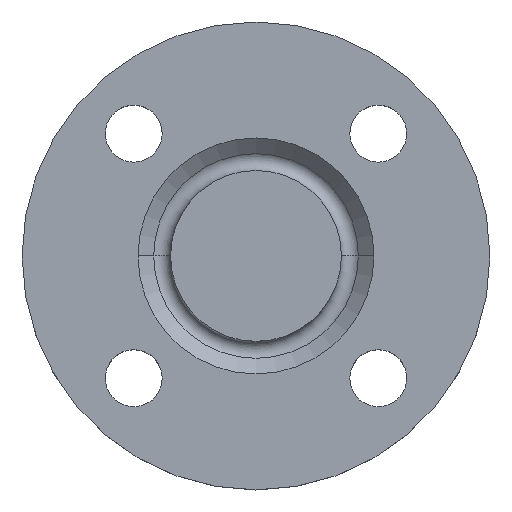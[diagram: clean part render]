
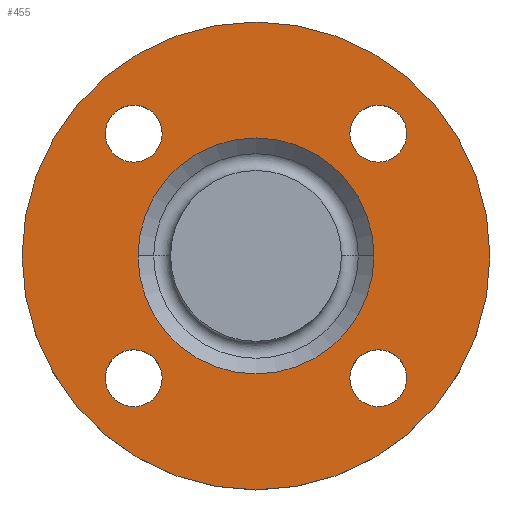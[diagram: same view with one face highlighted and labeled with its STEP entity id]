
A CAD part, top view. The second image highlights one B-rep face of the part: STEP entity #455.
In plain terms, the highlighted planar face has unit normal (0, 0, 1).
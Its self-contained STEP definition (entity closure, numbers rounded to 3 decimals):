
#5 = CARTESIAN_POINT ( 'NONE',  ( -29., 0., -2. ) ) ;
#6 = DIRECTION ( 'NONE',  ( 0., 0., -1. ) ) ;
#9 = AXIS2_PLACEMENT_3D ( 'NONE', #170, #837, #654 ) ;
#11 = CIRCLE ( 'NONE', #758, 29. ) ;
#21 = CARTESIAN_POINT ( 'NONE',  ( 0., 0., -2. ) ) ;
#58 = AXIS2_PLACEMENT_3D ( 'NONE', #622, #108, #279 ) ;
#68 = ORIENTED_EDGE ( 'NONE', *, *, #732, .T. ) ;
#85 = CARTESIAN_POINT ( 'NONE',  ( 29., 0., -2. ) ) ;
#87 = DIRECTION ( 'NONE',  ( 0., 0., -1. ) ) ;
#89 = CARTESIAN_POINT ( 'NONE',  ( -23.052, 30.052, -2. ) ) ;
#100 = CARTESIAN_POINT ( 'NONE',  ( 30.052, -30.052, -2. ) ) ;
#108 = DIRECTION ( 'NONE',  ( 0., 0., -1. ) ) ;
#111 = AXIS2_PLACEMENT_3D ( 'NONE', #266, #533, #807 ) ;
#113 = VERTEX_POINT ( 'NONE', #797 ) ;
#115 = VERTEX_POINT ( 'NONE', #294 ) ;
#136 = EDGE_CURVE ( 'NONE', #171, #374, #420, .T. ) ;
#153 = CARTESIAN_POINT ( 'NONE',  ( 57.5, 0., -2. ) ) ;
#158 = DIRECTION ( 'NONE',  ( 1., 0., 0. ) ) ;
#159 = CIRCLE ( 'NONE', #647, 7. ) ;
#160 = VERTEX_POINT ( 'NONE', #5 ) ;
#162 = EDGE_CURVE ( 'NONE', #561, #640, #392, .T. ) ;
#167 = EDGE_LOOP ( 'NONE', ( #240, #574 ) ) ;
#170 = CARTESIAN_POINT ( 'NONE',  ( -30.052, -30.052, -2. ) ) ;
#171 = VERTEX_POINT ( 'NONE', #89 ) ;
#179 = EDGE_CURVE ( 'NONE', #184, #113, #342, .T. ) ;
#184 = VERTEX_POINT ( 'NONE', #355 ) ;
#187 = VERTEX_POINT ( 'NONE', #341 ) ;
#195 = CIRCLE ( 'NONE', #111, 29. ) ;
#204 = DIRECTION ( 'NONE',  ( 1., 0., 0. ) ) ;
#208 = EDGE_LOOP ( 'NONE', ( #841, #767 ) ) ;
#210 = CARTESIAN_POINT ( 'NONE',  ( -30.052, 30.052, -2. ) ) ;
#231 = CARTESIAN_POINT ( 'NONE',  ( 30.052, 30.052, -2. ) ) ;
#235 = CARTESIAN_POINT ( 'NONE',  ( 0., 0., -2. ) ) ;
#238 = AXIS2_PLACEMENT_3D ( 'NONE', #500, #516, #711 ) ;
#239 = AXIS2_PLACEMENT_3D ( 'NONE', #21, #846, #475 ) ;
#240 = ORIENTED_EDGE ( 'NONE', *, *, #674, .T. ) ;
#243 = CARTESIAN_POINT ( 'NONE',  ( 37.052, -30.052, -2. ) ) ;
#258 = CARTESIAN_POINT ( 'NONE',  ( 30.052, 30.052, -2. ) ) ;
#265 = CARTESIAN_POINT ( 'NONE',  ( 23.052, -30.052, -2. ) ) ;
#266 = CARTESIAN_POINT ( 'NONE',  ( 0., 0., -2. ) ) ;
#277 = ORIENTED_EDGE ( 'NONE', *, *, #627, .T. ) ;
#279 = DIRECTION ( 'NONE',  ( 1., 0., 0. ) ) ;
#281 = FACE_BOUND ( 'NONE', #208, .T. ) ;
#290 = FACE_BOUND ( 'NONE', #750, .T. ) ;
#293 = CIRCLE ( 'NONE', #782, 7. ) ;
#294 = CARTESIAN_POINT ( 'NONE',  ( 57.5, 0., -2. ) ) ;
#295 = DIRECTION ( 'NONE',  ( -1., 0., 0. ) ) ;
#309 = VERTEX_POINT ( 'NONE', #265 ) ;
#322 = DIRECTION ( 'NONE',  ( -1., 0., 0. ) ) ;
#331 = AXIS2_PLACEMENT_3D ( 'NONE', #235, #833, #295 ) ;
#333 = CARTESIAN_POINT ( 'NONE',  ( -23.052, -30.052, -2. ) ) ;
#341 = CARTESIAN_POINT ( 'NONE',  ( -57.5, 0., -2. ) ) ;
#342 = CIRCLE ( 'NONE', #839, 7. ) ;
#343 = EDGE_CURVE ( 'NONE', #640, #561, #450, .T. ) ;
#344 = CIRCLE ( 'NONE', #842, 7. ) ;
#346 = DIRECTION ( 'NONE',  ( 0., 0., 1. ) ) ;
#355 = CARTESIAN_POINT ( 'NONE',  ( 37.052, 30.052, -2. ) ) ;
#367 = CARTESIAN_POINT ( 'NONE',  ( -37.052, 30.052, -2. ) ) ;
#373 = EDGE_CURVE ( 'NONE', #115, #187, #827, .T. ) ;
#374 = VERTEX_POINT ( 'NONE', #367 ) ;
#378 = CARTESIAN_POINT ( 'NONE',  ( 30.052, -30.052, -2. ) ) ;
#392 = CIRCLE ( 'NONE', #238, 7. ) ;
#420 = CIRCLE ( 'NONE', #58, 7. ) ;
#450 = CIRCLE ( 'NONE', #9, 7. ) ;
#455 = ADVANCED_FACE ( 'NONE', ( #481, #281, #753, #818, #290, #611 ), #683, .T. ) ;
#470 = DIRECTION ( 'NONE',  ( 0., 0., -1. ) ) ;
#475 = DIRECTION ( 'NONE',  ( -1., 0., 0. ) ) ;
#481 = FACE_BOUND ( 'NONE', #167, .T. ) ;
#483 = VERTEX_POINT ( 'NONE', #85 ) ;
#500 = CARTESIAN_POINT ( 'NONE',  ( -30.052, -30.052, -2. ) ) ;
#511 = DIRECTION ( 'NONE',  ( 0., 0., -1. ) ) ;
#516 = DIRECTION ( 'NONE',  ( 0., 0., -1. ) ) ;
#527 = AXIS2_PLACEMENT_3D ( 'NONE', #210, #470, #747 ) ;
#533 = DIRECTION ( 'NONE',  ( 0., 0., -1. ) ) ;
#561 = VERTEX_POINT ( 'NONE', #333 ) ;
#574 = ORIENTED_EDGE ( 'NONE', *, *, #727, .T. ) ;
#579 = ORIENTED_EDGE ( 'NONE', *, *, #707, .T. ) ;
#588 = EDGE_CURVE ( 'NONE', #187, #115, #843, .T. ) ;
#592 = CARTESIAN_POINT ( 'NONE',  ( -37.052, -30.052, -2. ) ) ;
#611 = FACE_OUTER_BOUND ( 'NONE', #745, .T. ) ;
#622 = CARTESIAN_POINT ( 'NONE',  ( -30.052, 30.052, -2. ) ) ;
#627 = EDGE_CURVE ( 'NONE', #483, #160, #195, .T. ) ;
#631 = DIRECTION ( 'NONE',  ( 0., 0., -1. ) ) ;
#640 = VERTEX_POINT ( 'NONE', #592 ) ;
#647 = AXIS2_PLACEMENT_3D ( 'NONE', #378, #786, #158 ) ;
#654 = DIRECTION ( 'NONE',  ( 1., 0., 0. ) ) ;
#674 = EDGE_CURVE ( 'NONE', #733, #309, #344, .T. ) ;
#679 = ORIENTED_EDGE ( 'NONE', *, *, #179, .T. ) ;
#683 = PLANE ( 'NONE',  #739 ) ;
#702 = ORIENTED_EDGE ( 'NONE', *, *, #373, .F. ) ;
#707 = EDGE_CURVE ( 'NONE', #374, #171, #795, .T. ) ;
#711 = DIRECTION ( 'NONE',  ( 1., 0., 0. ) ) ;
#727 = EDGE_CURVE ( 'NONE', #309, #733, #159, .T. ) ;
#731 = EDGE_LOOP ( 'NONE', ( #845, #579 ) ) ;
#732 = EDGE_CURVE ( 'NONE', #160, #483, #11, .T. ) ;
#733 = VERTEX_POINT ( 'NONE', #243 ) ;
#739 = AXIS2_PLACEMENT_3D ( 'NONE', #153, #346, #204 ) ;
#742 = ORIENTED_EDGE ( 'NONE', *, *, #801, .T. ) ;
#745 = EDGE_LOOP ( 'NONE', ( #702, #776 ) ) ;
#747 = DIRECTION ( 'NONE',  ( 1., 0., 0. ) ) ;
#750 = EDGE_LOOP ( 'NONE', ( #277, #68 ) ) ;
#753 = FACE_BOUND ( 'NONE', #731, .T. ) ;
#755 = DIRECTION ( 'NONE',  ( 1., 0., 0. ) ) ;
#758 = AXIS2_PLACEMENT_3D ( 'NONE', #777, #511, #322 ) ;
#767 = ORIENTED_EDGE ( 'NONE', *, *, #343, .T. ) ;
#776 = ORIENTED_EDGE ( 'NONE', *, *, #588, .F. ) ;
#777 = CARTESIAN_POINT ( 'NONE',  ( 0., 0., -2. ) ) ;
#782 = AXIS2_PLACEMENT_3D ( 'NONE', #258, #6, #793 ) ;
#786 = DIRECTION ( 'NONE',  ( 0., 0., -1. ) ) ;
#793 = DIRECTION ( 'NONE',  ( 1., 0., 0. ) ) ;
#795 = CIRCLE ( 'NONE', #527, 7. ) ;
#797 = CARTESIAN_POINT ( 'NONE',  ( 23.052, 30.052, -2. ) ) ;
#801 = EDGE_CURVE ( 'NONE', #113, #184, #293, .T. ) ;
#806 = EDGE_LOOP ( 'NONE', ( #679, #742 ) ) ;
#807 = DIRECTION ( 'NONE',  ( -1., 0., 0. ) ) ;
#814 = DIRECTION ( 'NONE',  ( 1., 0., 0. ) ) ;
#818 = FACE_BOUND ( 'NONE', #806, .T. ) ;
#827 = CIRCLE ( 'NONE', #331, 57.5 ) ;
#833 = DIRECTION ( 'NONE',  ( 0., 0., -1. ) ) ;
#837 = DIRECTION ( 'NONE',  ( 0., 0., -1. ) ) ;
#839 = AXIS2_PLACEMENT_3D ( 'NONE', #231, #631, #755 ) ;
#841 = ORIENTED_EDGE ( 'NONE', *, *, #162, .T. ) ;
#842 = AXIS2_PLACEMENT_3D ( 'NONE', #100, #87, #814 ) ;
#843 = CIRCLE ( 'NONE', #239, 57.5 ) ;
#845 = ORIENTED_EDGE ( 'NONE', *, *, #136, .T. ) ;
#846 = DIRECTION ( 'NONE',  ( 0., 0., -1. ) ) ;
